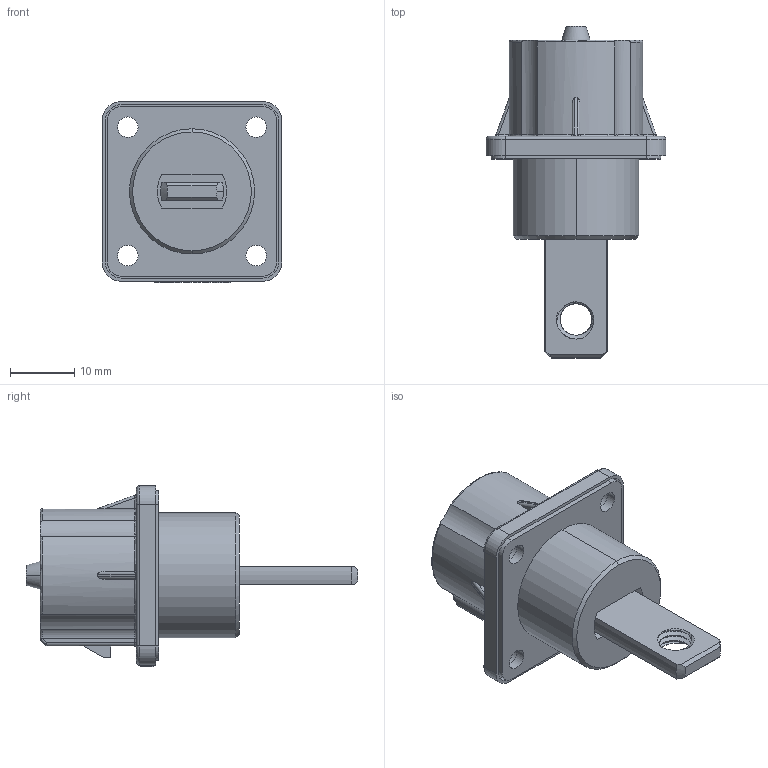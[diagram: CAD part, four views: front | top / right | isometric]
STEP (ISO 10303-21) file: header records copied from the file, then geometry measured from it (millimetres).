
FILE_DESCRIPTION (( 'STEP AP214' ), '1' );
FILE_NAME ('PL00X-120-10M6.STEP', '2016-11-18T02:27:53', ( '' ), ( '' ), 'SwSTEP 2.0', 'SolidWorks 2014', '' );
FILE_SCHEMA (( 'AUTOMOTIVE_DESIGN' ));
Length unit declared in the file: millimetre
Products named in the file (1): PL00X-120-10M6
Bounding box: 28 x 51.7 x 28.2 mm (x, y, z)
Volume: 10215.5 mm3; surface area: 5253.3 mm2
Topology: 1 solids, 1 shells, 344 faces, 887 edges, 569 vertices
Faces by surface type: plane 180, cylinder 98, torus 27, bspline 22, cone 15, sphere 2
Entity records: 15667 total; most frequent: CARTESIAN_POINT 3659, ORIENTED_EDGE 1770, DIRECTION 1628, EDGE_CURVE 885, VERTEX_POINT 569, LINE 546, VECTOR 546, AXIS2_PLACEMENT_3D 541
